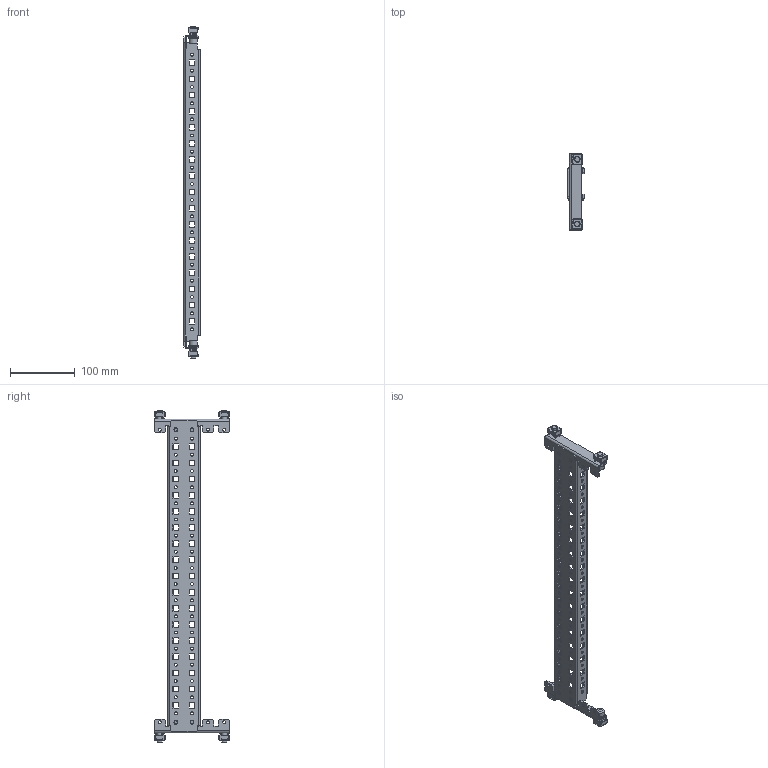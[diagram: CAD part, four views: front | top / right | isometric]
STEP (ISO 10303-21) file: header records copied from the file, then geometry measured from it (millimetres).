
FILE_DESCRIPTION(('CAx-IF Rec.Pracs.---Model Styling and Organization---1.2---2011-12-15','CAx-IF Rec.Pracs.---Geometric and Assembly Validation Properties---4.1---2014-06-16','CAx-IF Rec.Pracs.---PMI Polyline Presentation---2.0---2013-05-24'),'2;1');
FILE_NAME('R5PDS600.stp','2021-05-06T03:21:41+03:00',(''),(''),'STEP Interface 4.4 by CT CoreTechnologie','3D_Evolution4.4 by CT CoreTechnologie','');
FILE_SCHEMA(('AUTOMOTIVE_DESIGN { 1 0 10303 214 1 1 1 1 }'));
Length unit declared in the file: millimetre
Products named in the file (7): R5PDS600; M5x12-DIN7500C_stright; A3400003; 8 GOST 10463-81 (DIN 6798A) (CM220800)_-00; M8x20-GOST 11738-84 (DIN 912)_stright; RB.1510.00.00.0_-00; RB.1509.00.00.0_-00
Assembly tree (19 placements, depth 2):
  R5PDS600
    M5x12-DIN7500C_stright  x4
    A3400003  x4
    8 GOST 10463-81 (DIN 6798A) (CM220800)_-00  x4
    M8x20-GOST 11738-84 (DIN 912)_stright  x4
    RB.1510.00.00.0_-00  x2
    RB.1509.00.00.0_-00
Bounding box: 25 x 117.11 x 513.82 mm (x, y, z)
Surface area: 130315.1 mm2 (no closed solid volume)
Topology: 0 solids, 31 shells, 3006 faces, 8708 edges, 5764 vertices
Faces by surface type: plane 2298, cylinder 708
Entity records: 38440 total; most frequent: CARTESIAN_POINT 6688, ORIENTED_EDGE 6620, DIRECTION 6216, EDGE_CURVE 3310, VECTOR 2698, LINE 2698, VERTEX_POINT 2195, AXIS2_PLACEMENT_3D 1759
